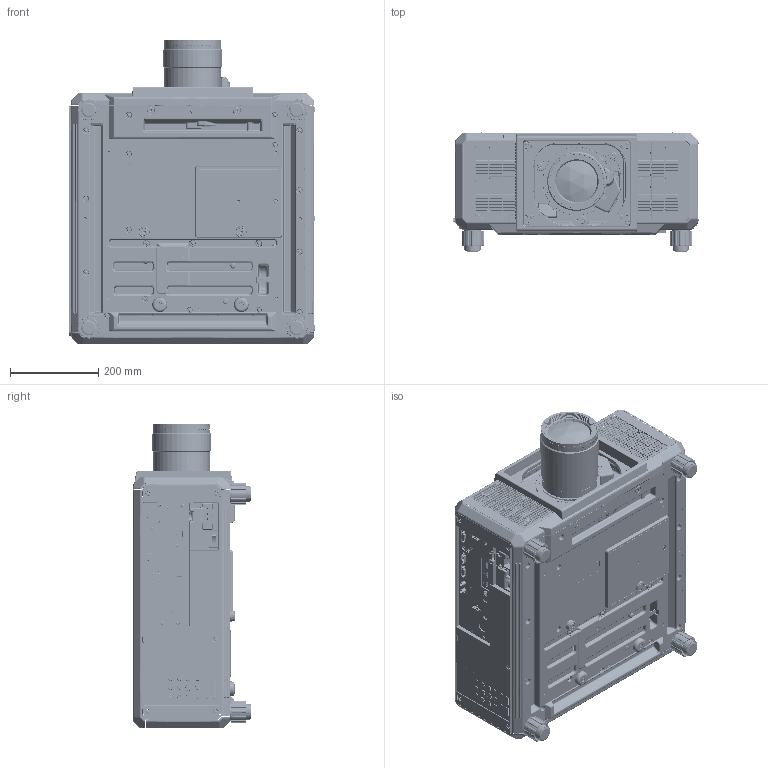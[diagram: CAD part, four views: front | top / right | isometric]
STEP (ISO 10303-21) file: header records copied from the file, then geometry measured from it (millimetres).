
FILE_DESCRIPTION(/* description */ (''),/* implementation_level */ '2;1');
FILE_NAME(/* name */ '01103024_ZA00_RQ25K_D75LE30_FACE.stp',/* time_stamp */ '2022-12-02T10:19:27+09:00',/* author */ (''),/* organization */ (''),/* preprocessor_version */ 'ST-DEVELOPER v16',/* originating_system */ 'SIEMENS PLM Software NX 10.0',/* authorisation */ '');
FILE_SCHEMA (('AUTOMOTIVE_DESIGN { 1 0 10303 214 3 1 1 1 }'));
Products named in the file (1): 01103024_ZA00
Bounding box: 556.3 x 269 x 691.65 mm (x, y, z)
Surface area: 1916952.8 mm2 (no closed solid volume)
Topology: 0 solids, 2227 shells, 10367 faces, 48248 edges, 39507 vertices
Faces by surface type: plane 5128, cylinder 4090, torus 453, bspline 394, cone 181, sphere 119, extrusion 2
Full cylindrical faces by diameter (mm): 1.02 x2, 3 x2, 3.6 x2, 5 x3, 5.5 x3, 6 x2, 7 x2, 8 x2, 9.5 x2, 14.9 x2, 16 x1, 23.647 x1, 37.2 x4, 40 x4, 77.3 x1, 94.3 x1, 97 x1, 103 x1, 105.5 x1, 108 x1, 110.5 x1, 113 x1, 115.5 x1, 125.6 x1, 126.2 x1, 126.6 x1, 128.6 x1, 129 x1, 129.6 x2, 134 x1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
Entity records: 599641 total; most frequent: CARTESIAN_POINT 154274, DIRECTION 78091, ORIENTED_EDGE 58155, EDGE_CURVE 47725, VERTEX_POINT 39349, VECTOR 26545, LINE 26543, AXIS2_PLACEMENT_3D 25773
